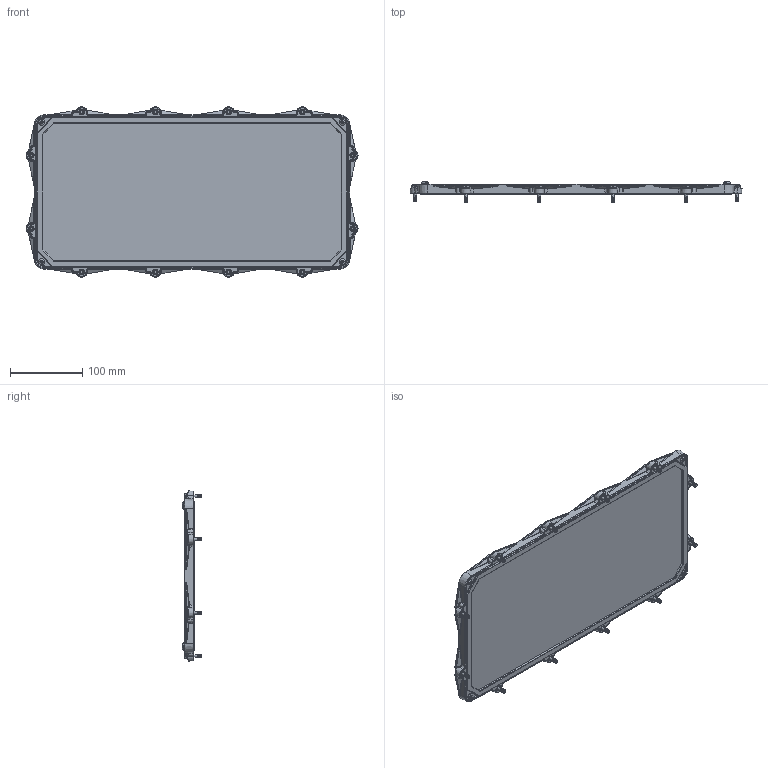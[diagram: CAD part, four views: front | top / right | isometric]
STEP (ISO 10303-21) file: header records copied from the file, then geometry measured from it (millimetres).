
FILE_DESCRIPTION((''),'2;1');
FILE_NAME('FLGLASSLX','2021-05-28T15:17:12',('gatsonnb'),(''),'CREO PARAMETRIC BY PTC INC, 2019080','CREO PARAMETRIC BY PTC INC, 2019080','');
FILE_SCHEMA(('CONFIG_CONTROL_DESIGN'));
Products named in the file (1): FLGLASSLX
Bounding box: 458.95 x 27.36 x 235.53 mm (x, y, z)
Surface area: 256431.5 mm2 (no closed solid volume)
Topology: 0 solids, 48 shells, 1529 faces, 4968 edges, 3333 vertices
Faces by surface type: cylinder 502, bspline 368, plane 297, cone 170, torus 144, sphere 48
Entity records: 103872 total; most frequent: CARTESIAN_POINT 66642, ORIENTED_EDGE 8174, DIRECTION 6095, EDGE_CURVE 4940, VERTEX_POINT 3333, B_SPLINE_CURVE_WITH_KNOTS 2298, AXIS2_PLACEMENT_3D 2292, EDGE_LOOP 1568
